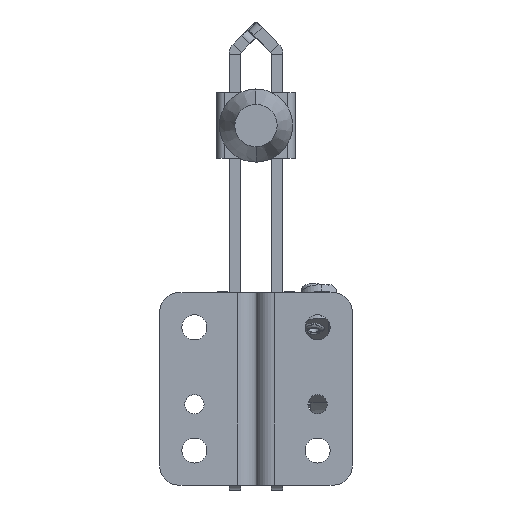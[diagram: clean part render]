
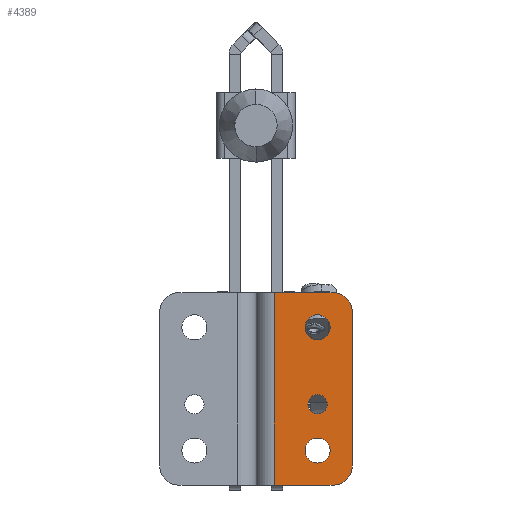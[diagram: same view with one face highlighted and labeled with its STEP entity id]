
A CAD part, front view. The second image highlights one B-rep face of the part: STEP entity #4389.
In plain terms, the highlighted planar face has unit normal (0, -1, 0).
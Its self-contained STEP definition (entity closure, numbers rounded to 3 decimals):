
#190 = CARTESIAN_POINT ( 'NONE',  ( 0., 0., 0. ) ) ;
#442 = DIRECTION ( 'NONE',  ( 1., 0., 0. ) ) ;
#696 = VECTOR ( 'NONE', #22755, 1000. ) ;
#1209 = CARTESIAN_POINT ( 'NONE',  ( 16., 0., 18.5 ) ) ;
#1916 = ORIENTED_EDGE ( 'NONE', *, *, #28336, .T. ) ;
#2095 = FACE_BOUND ( 'NONE', #36922, .T. ) ;
#2411 = DIRECTION ( 'NONE',  ( 0., 0., -1. ) ) ;
#2607 = CARTESIAN_POINT ( 'NONE',  ( 16., 0., 41. ) ) ;
#3130 = CARTESIAN_POINT ( 'NONE',  ( 20., 0., 0. ) ) ;
#3185 = VERTEX_POINT ( 'NONE', #1209 ) ;
#3226 = CIRCLE ( 'NONE', #46576, 3.25 ) ;
#3646 = CARTESIAN_POINT ( 'NONE',  ( 25., 0., 5. ) ) ;
#3702 = DIRECTION ( 'NONE',  ( 0., 1., 0. ) ) ;
#3867 = DIRECTION ( 'NONE',  ( 0., 0., 1. ) ) ;
#3946 = CIRCLE ( 'NONE', #13750, 5. ) ;
#4022 = AXIS2_PLACEMENT_3D ( 'NONE', #15423, #4443, #23414 ) ;
#4389 = ADVANCED_FACE ( 'NONE', ( #36688, #2095, #9777, #48945 ), #5937, .F. ) ;
#4443 = DIRECTION ( 'NONE',  ( 0., 1., 0. ) ) ;
#5479 = EDGE_LOOP ( 'NONE', ( #27515, #25433 ) ) ;
#5937 = PLANE ( 'NONE',  #21685 ) ;
#6090 = CARTESIAN_POINT ( 'NONE',  ( 16., 0., 21. ) ) ;
#6763 = DIRECTION ( 'NONE',  ( 0., 0., 1. ) ) ;
#6912 = EDGE_CURVE ( 'NONE', #3185, #16295, #18417, .T. ) ;
#8122 = AXIS2_PLACEMENT_3D ( 'NONE', #14930, #46192, #6763 ) ;
#8854 = AXIS2_PLACEMENT_3D ( 'NONE', #2607, #33874, #10542 ) ;
#8987 = CARTESIAN_POINT ( 'NONE',  ( 20., 0., 50. ) ) ;
#9157 = EDGE_LOOP ( 'NONE', ( #32860, #14720, #9948, #11569, #34779, #30699 ) ) ;
#9777 = FACE_BOUND ( 'NONE', #27739, .T. ) ;
#9860 = AXIS2_PLACEMENT_3D ( 'NONE', #47143, #38954, #3867 ) ;
#9862 = CARTESIAN_POINT ( 'NONE',  ( 16., 0., 37.75 ) ) ;
#9927 = DIRECTION ( 'NONE',  ( 1., 0., 0. ) ) ;
#9948 = ORIENTED_EDGE ( 'NONE', *, *, #30934, .F. ) ;
#10542 = DIRECTION ( 'NONE',  ( 0., 0., 1. ) ) ;
#11456 = LINE ( 'NONE', #34034, #696 ) ;
#11569 = ORIENTED_EDGE ( 'NONE', *, *, #21611, .T. ) ;
#13467 = CARTESIAN_POINT ( 'NONE',  ( 25., 0., 45. ) ) ;
#13750 = AXIS2_PLACEMENT_3D ( 'NONE', #30228, #19194, #45840 ) ;
#13813 = ORIENTED_EDGE ( 'NONE', *, *, #40869, .T. ) ;
#14720 = ORIENTED_EDGE ( 'NONE', *, *, #20255, .T. ) ;
#14742 = CIRCLE ( 'NONE', #9860, 3.25 ) ;
#14804 = CIRCLE ( 'NONE', #34471, 2.5 ) ;
#14930 = CARTESIAN_POINT ( 'NONE',  ( 20., 0., 5. ) ) ;
#15423 = CARTESIAN_POINT ( 'NONE',  ( 16., 0., 9. ) ) ;
#16295 = VERTEX_POINT ( 'NONE', #25448 ) ;
#16650 = VERTEX_POINT ( 'NONE', #8987 ) ;
#17357 = DIRECTION ( 'NONE',  ( 0., 0., 1. ) ) ;
#17796 = VERTEX_POINT ( 'NONE', #3646 ) ;
#18081 = VERTEX_POINT ( 'NONE', #25665 ) ;
#18329 = EDGE_CURVE ( 'NONE', #19188, #16650, #37331, .T. ) ;
#18417 = CIRCLE ( 'NONE', #49471, 2.5 ) ;
#18435 = CARTESIAN_POINT ( 'NONE',  ( 4.737, 0., 50. ) ) ;
#18726 = DIRECTION ( 'NONE',  ( 0., 0., 1. ) ) ;
#19188 = VERTEX_POINT ( 'NONE', #18435 ) ;
#19194 = DIRECTION ( 'NONE',  ( 0., -1., 0. ) ) ;
#20255 = EDGE_CURVE ( 'NONE', #45925, #17796, #25307, .T. ) ;
#20556 = CARTESIAN_POINT ( 'NONE',  ( 4.737, 0., 0. ) ) ;
#21321 = DIRECTION ( 'NONE',  ( 0., 1., 0. ) ) ;
#21611 = EDGE_CURVE ( 'NONE', #33225, #16650, #3946, .T. ) ;
#21685 = AXIS2_PLACEMENT_3D ( 'NONE', #29746, #21321, #21810 ) ;
#21810 = DIRECTION ( 'NONE',  ( 0., 0., 1. ) ) ;
#22755 = DIRECTION ( 'NONE',  ( 0., 0., -1. ) ) ;
#23206 = CARTESIAN_POINT ( 'NONE',  ( 16., 0., 21. ) ) ;
#23289 = EDGE_CURVE ( 'NONE', #49408, #18081, #3226, .T. ) ;
#23414 = DIRECTION ( 'NONE',  ( 0., 0., 1. ) ) ;
#24421 = CIRCLE ( 'NONE', #8854, 3.25 ) ;
#25213 = LINE ( 'NONE', #37497, #49179 ) ;
#25307 = CIRCLE ( 'NONE', #8122, 5. ) ;
#25433 = ORIENTED_EDGE ( 'NONE', *, *, #6912, .T. ) ;
#25448 = CARTESIAN_POINT ( 'NONE',  ( 16., 0., 23.5 ) ) ;
#25542 = ORIENTED_EDGE ( 'NONE', *, *, #23289, .T. ) ;
#25665 = CARTESIAN_POINT ( 'NONE',  ( 16., 0., 12.25 ) ) ;
#26787 = VECTOR ( 'NONE', #9927, 1000. ) ;
#27118 = LINE ( 'NONE', #190, #27469 ) ;
#27469 = VECTOR ( 'NONE', #442, 1000. ) ;
#27515 = ORIENTED_EDGE ( 'NONE', *, *, #30584, .T. ) ;
#27739 = EDGE_LOOP ( 'NONE', ( #13813, #1916 ) ) ;
#27908 = VERTEX_POINT ( 'NONE', #9862 ) ;
#28336 = EDGE_CURVE ( 'NONE', #27908, #50224, #24421, .T. ) ;
#28477 = ORIENTED_EDGE ( 'NONE', *, *, #28977, .T. ) ;
#28534 = CARTESIAN_POINT ( 'NONE',  ( 16., 0., 44.25 ) ) ;
#28977 = EDGE_CURVE ( 'NONE', #18081, #49408, #47380, .T. ) ;
#29746 = CARTESIAN_POINT ( 'NONE',  ( 0., 0., 50. ) ) ;
#30228 = CARTESIAN_POINT ( 'NONE',  ( 20., 0., 45. ) ) ;
#30584 = EDGE_CURVE ( 'NONE', #16295, #3185, #14804, .T. ) ;
#30699 = ORIENTED_EDGE ( 'NONE', *, *, #34126, .T. ) ;
#30934 = EDGE_CURVE ( 'NONE', #33225, #17796, #25213, .T. ) ;
#32860 = ORIENTED_EDGE ( 'NONE', *, *, #47827, .T. ) ;
#33225 = VERTEX_POINT ( 'NONE', #13467 ) ;
#33874 = DIRECTION ( 'NONE',  ( 0., 1., 0. ) ) ;
#34034 = CARTESIAN_POINT ( 'NONE',  ( 4.737, 0., 50. ) ) ;
#34126 = EDGE_CURVE ( 'NONE', #19188, #34842, #11456, .T. ) ;
#34471 = AXIS2_PLACEMENT_3D ( 'NONE', #23206, #3702, #34487 ) ;
#34487 = DIRECTION ( 'NONE',  ( 0., 0., 1. ) ) ;
#34779 = ORIENTED_EDGE ( 'NONE', *, *, #18329, .F. ) ;
#34842 = VERTEX_POINT ( 'NONE', #20556 ) ;
#36688 = FACE_BOUND ( 'NONE', #5479, .T. ) ;
#36922 = EDGE_LOOP ( 'NONE', ( #28477, #25542 ) ) ;
#37331 = LINE ( 'NONE', #37586, #26787 ) ;
#37497 = CARTESIAN_POINT ( 'NONE',  ( 25., 0., 50. ) ) ;
#37586 = CARTESIAN_POINT ( 'NONE',  ( 0., 0., 50. ) ) ;
#38913 = DIRECTION ( 'NONE',  ( 0., 1., 0. ) ) ;
#38954 = DIRECTION ( 'NONE',  ( 0., 1., 0. ) ) ;
#40869 = EDGE_CURVE ( 'NONE', #50224, #27908, #14742, .T. ) ;
#41042 = CARTESIAN_POINT ( 'NONE',  ( 16., 0., 5.75 ) ) ;
#44513 = DIRECTION ( 'NONE',  ( 0., 1., 0. ) ) ;
#45840 = DIRECTION ( 'NONE',  ( 0., 0., 1. ) ) ;
#45925 = VERTEX_POINT ( 'NONE', #3130 ) ;
#46108 = CARTESIAN_POINT ( 'NONE',  ( 16., 0., 9. ) ) ;
#46192 = DIRECTION ( 'NONE',  ( 0., -1., 0. ) ) ;
#46576 = AXIS2_PLACEMENT_3D ( 'NONE', #46108, #38913, #18726 ) ;
#47143 = CARTESIAN_POINT ( 'NONE',  ( 16., 0., 41. ) ) ;
#47380 = CIRCLE ( 'NONE', #4022, 3.25 ) ;
#47827 = EDGE_CURVE ( 'NONE', #34842, #45925, #27118, .T. ) ;
#48945 = FACE_OUTER_BOUND ( 'NONE', #9157, .T. ) ;
#49179 = VECTOR ( 'NONE', #2411, 1000. ) ;
#49408 = VERTEX_POINT ( 'NONE', #41042 ) ;
#49471 = AXIS2_PLACEMENT_3D ( 'NONE', #6090, #44513, #17357 ) ;
#50224 = VERTEX_POINT ( 'NONE', #28534 ) ;
